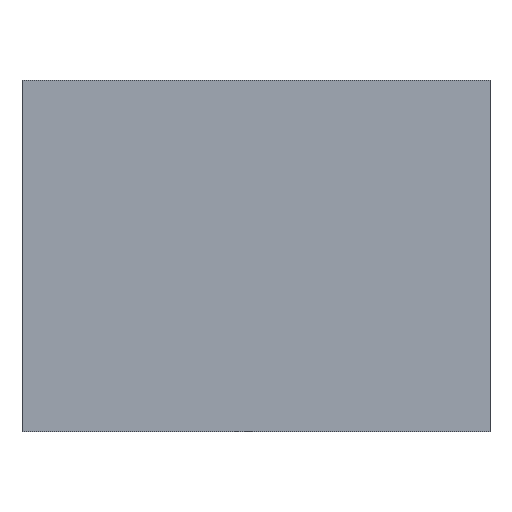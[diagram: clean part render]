
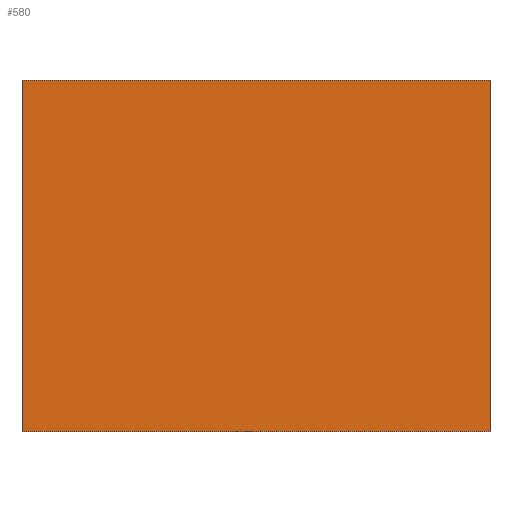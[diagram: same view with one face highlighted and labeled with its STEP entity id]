
A CAD part, front view. The second image highlights one B-rep face of the part: STEP entity #580.
In plain terms, the highlighted planar face has unit normal (0, -1, 0).
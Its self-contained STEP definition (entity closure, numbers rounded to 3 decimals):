
#22 = VERTEX_POINT('',#23);
#23 = CARTESIAN_POINT('',(23.,-6.5,49.));
#32 = PLANE('',#33);
#33 = AXIS2_PLACEMENT_3D('',#34,#35,#36);
#34 = CARTESIAN_POINT('',(23.,-6.5,31.));
#35 = DIRECTION('',(1.,0.,0.));
#36 = DIRECTION('',(0.,0.,1.));
#44 = PLANE('',#45);
#45 = AXIS2_PLACEMENT_3D('',#46,#47,#48);
#46 = CARTESIAN_POINT('',(23.,-6.5,49.));
#47 = DIRECTION('',(0.,0.,1.));
#48 = DIRECTION('',(1.,0.,0.));
#56 = EDGE_CURVE('',#57,#22,#59,.T.);
#57 = VERTEX_POINT('',#58);
#58 = CARTESIAN_POINT('',(23.,-6.5,31.));
#59 = SURFACE_CURVE('',#60,(#64,#71),.PCURVE_S1.);
#60 = LINE('',#61,#62);
#61 = CARTESIAN_POINT('',(23.,-6.5,31.));
#62 = VECTOR('',#63,1.);
#63 = DIRECTION('',(0.,0.,1.));
#64 = PCURVE('',#32,#65);
#65 = DEFINITIONAL_REPRESENTATION('',(#66),#70);
#66 = LINE('',#67,#68);
#67 = CARTESIAN_POINT('',(0.,0.));
#68 = VECTOR('',#69,1.);
#69 = DIRECTION('',(1.,0.));
#70 = ( GEOMETRIC_REPRESENTATION_CONTEXT(2) 
PARAMETRIC_REPRESENTATION_CONTEXT() REPRESENTATION_CONTEXT('2D SPACE',''
  ) );
#71 = PCURVE('',#72,#77);
#72 = PLANE('',#73);
#73 = AXIS2_PLACEMENT_3D('',#74,#75,#76);
#74 = CARTESIAN_POINT('',(23.,-6.5,31.));
#75 = DIRECTION('',(0.,1.,0.));
#76 = DIRECTION('',(0.,0.,1.));
#77 = DEFINITIONAL_REPRESENTATION('',(#78),#82);
#78 = LINE('',#79,#80);
#79 = CARTESIAN_POINT('',(0.,0.));
#80 = VECTOR('',#81,1.);
#81 = DIRECTION('',(1.,0.));
#82 = ( GEOMETRIC_REPRESENTATION_CONTEXT(2) 
PARAMETRIC_REPRESENTATION_CONTEXT() REPRESENTATION_CONTEXT('2D SPACE',''
  ) );
#100 = PLANE('',#101);
#101 = AXIS2_PLACEMENT_3D('',#102,#103,#104);
#102 = CARTESIAN_POINT('',(23.,-6.5,31.));
#103 = DIRECTION('',(0.,0.,1.));
#104 = DIRECTION('',(1.,0.,0.));
#309 = EDGE_CURVE('',#22,#310,#312,.T.);
#310 = VERTEX_POINT('',#311);
#311 = CARTESIAN_POINT('',(47.,-6.5,49.));
#312 = SURFACE_CURVE('',#313,(#317,#324),.PCURVE_S1.);
#313 = LINE('',#314,#315);
#314 = CARTESIAN_POINT('',(23.,-6.5,49.));
#315 = VECTOR('',#316,1.);
#316 = DIRECTION('',(1.,0.,0.));
#317 = PCURVE('',#44,#318);
#318 = DEFINITIONAL_REPRESENTATION('',(#319),#323);
#319 = LINE('',#320,#321);
#320 = CARTESIAN_POINT('',(0.,0.));
#321 = VECTOR('',#322,1.);
#322 = DIRECTION('',(1.,0.));
#323 = ( GEOMETRIC_REPRESENTATION_CONTEXT(2) 
PARAMETRIC_REPRESENTATION_CONTEXT() REPRESENTATION_CONTEXT('2D SPACE',''
  ) );
#324 = PCURVE('',#72,#325);
#325 = DEFINITIONAL_REPRESENTATION('',(#326),#330);
#326 = LINE('',#327,#328);
#327 = CARTESIAN_POINT('',(18.,0.));
#328 = VECTOR('',#329,1.);
#329 = DIRECTION('',(0.,1.));
#330 = ( GEOMETRIC_REPRESENTATION_CONTEXT(2) 
PARAMETRIC_REPRESENTATION_CONTEXT() REPRESENTATION_CONTEXT('2D SPACE',''
  ) );
#348 = PLANE('',#349);
#349 = AXIS2_PLACEMENT_3D('',#350,#351,#352);
#350 = CARTESIAN_POINT('',(47.,-6.5,31.));
#351 = DIRECTION('',(1.,0.,0.));
#352 = DIRECTION('',(0.,0.,1.));
#580 = ADVANCED_FACE('',(#581),#72,.F.);
#581 = FACE_BOUND('',#582,.F.);
#582 = EDGE_LOOP('',(#583,#606,#607,#608));
#583 = ORIENTED_EDGE('',*,*,#584,.F.);
#584 = EDGE_CURVE('',#57,#585,#587,.T.);
#585 = VERTEX_POINT('',#586);
#586 = CARTESIAN_POINT('',(47.,-6.5,31.));
#587 = SURFACE_CURVE('',#588,(#592,#599),.PCURVE_S1.);
#588 = LINE('',#589,#590);
#589 = CARTESIAN_POINT('',(23.,-6.5,31.));
#590 = VECTOR('',#591,1.);
#591 = DIRECTION('',(1.,0.,0.));
#592 = PCURVE('',#72,#593);
#593 = DEFINITIONAL_REPRESENTATION('',(#594),#598);
#594 = LINE('',#595,#596);
#595 = CARTESIAN_POINT('',(0.,0.));
#596 = VECTOR('',#597,1.);
#597 = DIRECTION('',(0.,1.));
#598 = ( GEOMETRIC_REPRESENTATION_CONTEXT(2) 
PARAMETRIC_REPRESENTATION_CONTEXT() REPRESENTATION_CONTEXT('2D SPACE',''
  ) );
#599 = PCURVE('',#100,#600);
#600 = DEFINITIONAL_REPRESENTATION('',(#601),#605);
#601 = LINE('',#602,#603);
#602 = CARTESIAN_POINT('',(0.,0.));
#603 = VECTOR('',#604,1.);
#604 = DIRECTION('',(1.,0.));
#605 = ( GEOMETRIC_REPRESENTATION_CONTEXT(2) 
PARAMETRIC_REPRESENTATION_CONTEXT() REPRESENTATION_CONTEXT('2D SPACE',''
  ) );
#606 = ORIENTED_EDGE('',*,*,#56,.T.);
#607 = ORIENTED_EDGE('',*,*,#309,.T.);
#608 = ORIENTED_EDGE('',*,*,#609,.F.);
#609 = EDGE_CURVE('',#585,#310,#610,.T.);
#610 = SURFACE_CURVE('',#611,(#615,#622),.PCURVE_S1.);
#611 = LINE('',#612,#613);
#612 = CARTESIAN_POINT('',(47.,-6.5,31.));
#613 = VECTOR('',#614,1.);
#614 = DIRECTION('',(0.,0.,1.));
#615 = PCURVE('',#72,#616);
#616 = DEFINITIONAL_REPRESENTATION('',(#617),#621);
#617 = LINE('',#618,#619);
#618 = CARTESIAN_POINT('',(0.,24.));
#619 = VECTOR('',#620,1.);
#620 = DIRECTION('',(1.,0.));
#621 = ( GEOMETRIC_REPRESENTATION_CONTEXT(2) 
PARAMETRIC_REPRESENTATION_CONTEXT() REPRESENTATION_CONTEXT('2D SPACE',''
  ) );
#622 = PCURVE('',#348,#623);
#623 = DEFINITIONAL_REPRESENTATION('',(#624),#628);
#624 = LINE('',#625,#626);
#625 = CARTESIAN_POINT('',(0.,0.));
#626 = VECTOR('',#627,1.);
#627 = DIRECTION('',(1.,0.));
#628 = ( GEOMETRIC_REPRESENTATION_CONTEXT(2) 
PARAMETRIC_REPRESENTATION_CONTEXT() REPRESENTATION_CONTEXT('2D SPACE',''
  ) );
